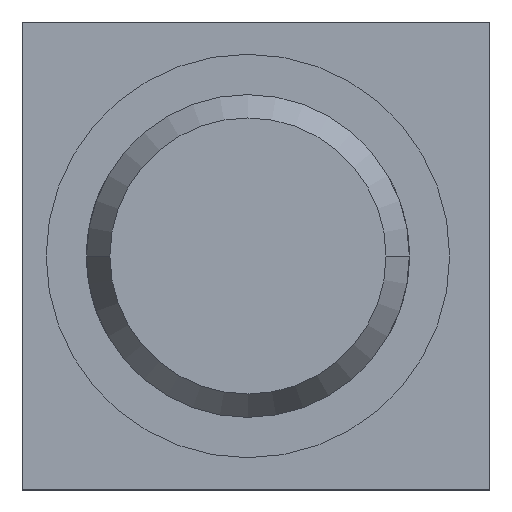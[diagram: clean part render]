
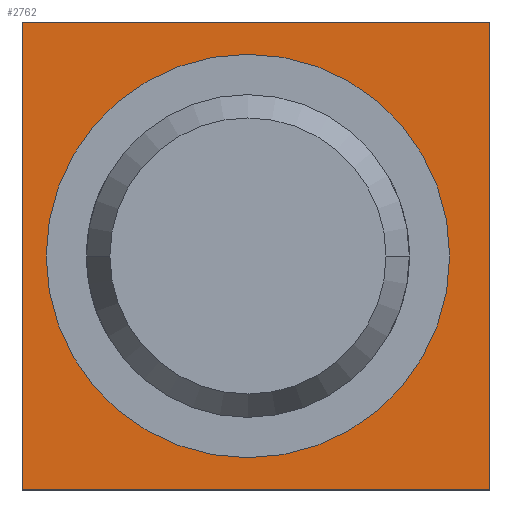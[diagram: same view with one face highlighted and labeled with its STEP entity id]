
A CAD part, left-side view. The second image highlights one B-rep face of the part: STEP entity #2762.
In plain terms, the highlighted planar face has unit normal (-1, 0, 0).
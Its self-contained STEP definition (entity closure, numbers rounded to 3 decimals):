
#21 = EDGE_CURVE ( 'NONE', #1644, #1890, #920, .T. ) ;
#40 = AXIS2_PLACEMENT_3D ( 'NONE', #1934, #626, #896 ) ;
#76 = ORIENTED_EDGE ( 'NONE', *, *, #720, .F. ) ;
#92 = EDGE_CURVE ( 'NONE', #1673, #2656, #617, .T. ) ;
#174 = DIRECTION ( 'NONE',  ( 1., 0., 0. ) ) ;
#261 = FACE_BOUND ( 'NONE', #1337, .T. ) ;
#287 = AXIS2_PLACEMENT_3D ( 'NONE', #2085, #174, #355 ) ;
#338 = ORIENTED_EDGE ( 'NONE', *, *, #21, .T. ) ;
#355 = DIRECTION ( 'NONE',  ( 0., 1., 0. ) ) ;
#432 = CARTESIAN_POINT ( 'NONE',  ( 11.8, 2.8, 2.9 ) ) ;
#489 = LINE ( 'NONE', #1765, #2292 ) ;
#499 = EDGE_CURVE ( 'NONE', #1890, #1644, #1496, .T. ) ;
#559 = DIRECTION ( 'NONE',  ( 0., 1., 0. ) ) ;
#563 = ORIENTED_EDGE ( 'NONE', *, *, #880, .T. ) ;
#565 = DIRECTION ( 'NONE',  ( 0., 0., 1. ) ) ;
#617 = LINE ( 'NONE', #1625, #995 ) ;
#626 = DIRECTION ( 'NONE',  ( -1., 0., 0. ) ) ;
#720 = EDGE_CURVE ( 'NONE', #2440, #2656, #970, .T. ) ;
#721 = CARTESIAN_POINT ( 'NONE',  ( 11.8, 2.8, 0. ) ) ;
#834 = ORIENTED_EDGE ( 'NONE', *, *, #499, .T. ) ;
#880 = EDGE_CURVE ( 'NONE', #1026, #1673, #1868, .T. ) ;
#896 = DIRECTION ( 'NONE',  ( 0., 0., 1. ) ) ;
#920 = CIRCLE ( 'NONE', #1628, 2.5 ) ;
#966 = EDGE_LOOP ( 'NONE', ( #76, #2023, #563, #1307 ) ) ;
#970 = LINE ( 'NONE', #721, #1930 ) ;
#995 = VECTOR ( 'NONE', #559, 1000. ) ;
#1015 = EDGE_CURVE ( 'NONE', #1026, #2440, #489, .T. ) ;
#1026 = VERTEX_POINT ( 'NONE', #2379 ) ;
#1040 = DIRECTION ( 'NONE',  ( 0., 1., 0. ) ) ;
#1066 = PLANE ( 'NONE',  #40 ) ;
#1205 = CARTESIAN_POINT ( 'NONE',  ( 11.8, -3., 2.9 ) ) ;
#1307 = ORIENTED_EDGE ( 'NONE', *, *, #92, .T. ) ;
#1337 = EDGE_LOOP ( 'NONE', ( #338, #834 ) ) ;
#1496 = CIRCLE ( 'NONE', #287, 2.5 ) ;
#1573 = DIRECTION ( 'NONE',  ( 0., 0., 1. ) ) ;
#1625 = CARTESIAN_POINT ( 'NONE',  ( 11.8, -3., 2.9 ) ) ;
#1628 = AXIS2_PLACEMENT_3D ( 'NONE', #1876, #1830, #1040 ) ;
#1644 = VERTEX_POINT ( 'NONE', #2251 ) ;
#1673 = VERTEX_POINT ( 'NONE', #1205 ) ;
#1765 = CARTESIAN_POINT ( 'NONE',  ( 11.8, -3., -2.9 ) ) ;
#1830 = DIRECTION ( 'NONE',  ( 1., 0., 0. ) ) ;
#1868 = LINE ( 'NONE', #2742, #2567 ) ;
#1876 = CARTESIAN_POINT ( 'NONE',  ( 11.8, 0., 0. ) ) ;
#1890 = VERTEX_POINT ( 'NONE', #2707 ) ;
#1930 = VECTOR ( 'NONE', #1573, 1000. ) ;
#1934 = CARTESIAN_POINT ( 'NONE',  ( 11.8, -3., 0. ) ) ;
#2023 = ORIENTED_EDGE ( 'NONE', *, *, #1015, .F. ) ;
#2085 = CARTESIAN_POINT ( 'NONE',  ( 11.8, 0., 0. ) ) ;
#2251 = CARTESIAN_POINT ( 'NONE',  ( 11.8, 2.5, 0. ) ) ;
#2288 = CARTESIAN_POINT ( 'NONE',  ( 11.8, 2.8, -2.9 ) ) ;
#2292 = VECTOR ( 'NONE', #2609, 1000. ) ;
#2379 = CARTESIAN_POINT ( 'NONE',  ( 11.8, -3., -2.9 ) ) ;
#2440 = VERTEX_POINT ( 'NONE', #2288 ) ;
#2567 = VECTOR ( 'NONE', #565, 1000. ) ;
#2572 = FACE_OUTER_BOUND ( 'NONE', #966, .T. ) ;
#2609 = DIRECTION ( 'NONE',  ( 0., 1., 0. ) ) ;
#2656 = VERTEX_POINT ( 'NONE', #432 ) ;
#2707 = CARTESIAN_POINT ( 'NONE',  ( 11.8, -2.5, 0. ) ) ;
#2742 = CARTESIAN_POINT ( 'NONE',  ( 11.8, -3., 0. ) ) ;
#2762 = ADVANCED_FACE ( 'NONE', ( #261, #2572 ), #1066, .T. ) ;
